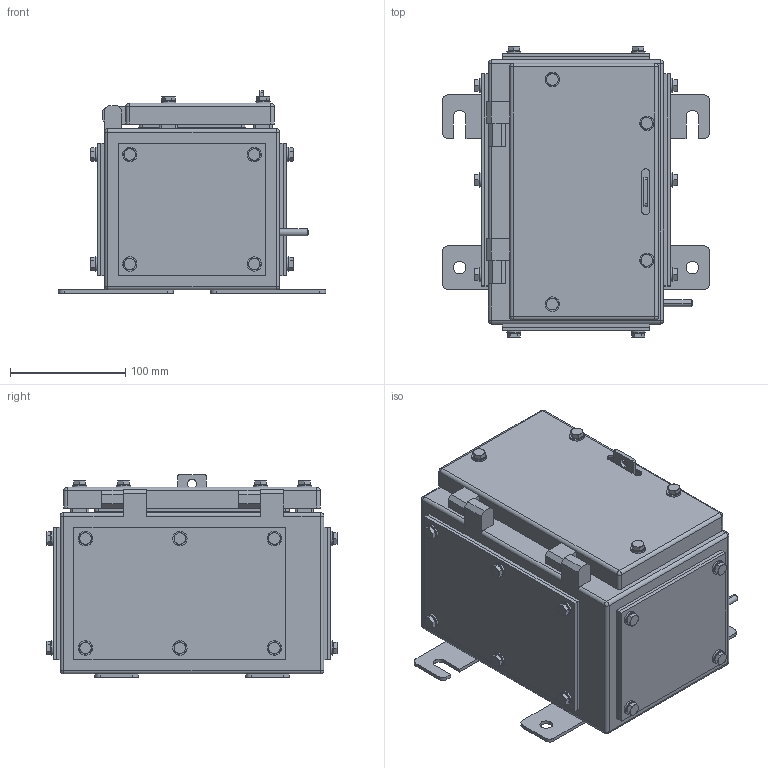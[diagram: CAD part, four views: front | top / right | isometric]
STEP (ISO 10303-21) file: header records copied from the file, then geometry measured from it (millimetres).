
FILE_DESCRIPTION (( 'STEP AP203' ), '1' );
FILE_NAME ('SX0_140 4GP.STEP', '2021-05-21T07:01:49', ( '' ), ( '' ), 'SwSTEP 2.0', 'SolidWorks 2020', '' );
FILE_SCHEMA (( 'CONFIG_CONTROL_DESIGN' ));
Length unit declared in the file: millimetre
Products named in the file (10): SX0-140 side Gasket; SX0-140 Base Gasket; hex screw gradec_bsi_BS EN 24018 - M6 x 16-WN; SX0_140 4GP Body; plain washer form a_bsi_Bright washer BS 4320 - M6 (Form A); SX0-140 side Gland plate; SX0-140 Base Gland plate; SX0_140 4GP; hex screw gradec_bsi_BS EN 24018 - M6 x 20-WN; SX0 Door
Assembly tree (58 placements, depth 2):
  SX0_140 4GP
    SX0_140 4GP Body
    SX0 Door
    plain washer form a_bsi_Bright washer BS 4320 - M6 (Form A)  x24
    hex screw gradec_bsi_BS EN 24018 - M6 x 20-WN  x4
    SX0-140 side Gasket  x2
    SX0-140 side Gland plate  x2
    SX0-140 Base Gland plate  x2
    SX0-140 Base Gasket  x2
    hex screw gradec_bsi_BS EN 24018 - M6 x 16-WN  x20
Bounding box: 232 x 252.95 x 176 mm (x, y, z)
Volume: 779245.7 mm3; surface area: 639205.1 mm2
Topology: 58 solids, 58 shells, 1450 faces, 3202 edges, 1928 vertices
Faces by surface type: plane 670, cylinder 532, cone 200, sphere 40, torus 8
Entity records: 20774 total; most frequent: DIRECTION 3484, CARTESIAN_POINT 3175, ORIENTED_EDGE 2900, EDGE_CURVE 1450, AXIS2_PLACEMENT_3D 1357, VERTEX_POINT 904, EDGE_LOOP 786, VECTOR 770
